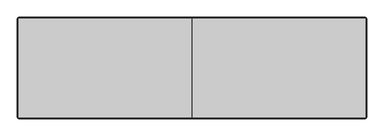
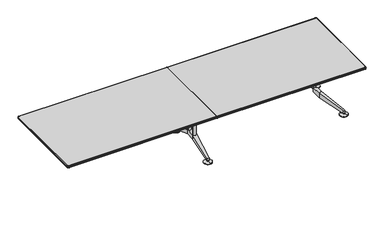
"""IFC4 building model written with IfcOpenShell, lengths in millimetres: furniture geometry, Furniture_Wilkhahn_620-23_Logon Table-Rectangle : Logon 620/23_3800L x 1100W x 730H."""

from ifc_helpers import new_model, si_unit, point, frame, frame_2d, origin, place, context, project, spatial, polyline, circle_curve, ellipse_curve, trimmed, segment, composite_curve, outline, extrude, source, transform, mapped, element, save
from ifc_brep_helpers import plane_surface, cylinder_surface, revolved_surface, advanced_brep


def furniture_2a9930ef(model_context):
    return source(origin(), model_context, "Body", "SolidModel", [
        advanced_brep(
        [(0.0, 226.4755164, 0.0), (0.0, 176.4755164, 0.0), (0.0, 276.4755164, 0.0), (0.0, 176.4755164, 6.0), (0.0, 276.4755164, 6.0), (0.0, 213.9998784, 17.0), (0.0, 238.9511544, 17.0), (0.0, 213.9998784, 27.0), (0.0, 238.9511544, 27.0), (0.0, 226.4755164, 27.0)],
        [
            (0, 1),
            (1, 2, circle_curve(frame((0.0, 226.4755164, 0.0), z_axis=(0.0, 0.0, -1.0), x_axis=(0.0, 1.0000000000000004, 0.0)), 50.0)),
            (2, 0),
            (2, 1, circle_curve(frame((0.0, 226.4755164, 0.0), z_axis=(0.0, 0.0, -1.0), x_axis=(0.0, 1.0000000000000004, 0.0)), 50.0)),
            (1, 3),
            (3, 4, circle_curve(frame((0.0, 226.4755164, 6.0), z_axis=(0.0, 0.0, -1.0), x_axis=(0.0, 1.0000000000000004, 0.0)), 50.0)),
            (4, 2),
            (4, 3, circle_curve(frame((0.0, 226.4755164, 6.0), z_axis=(0.0, 0.0, -1.0), x_axis=(0.0, 1.0000000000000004, 0.0)), 50.0)),
            (3, 5),
            (5, 6, circle_curve(frame((0.0, 226.4755164, 17.0), z_axis=(0.0, 0.0, -1.0), x_axis=(0.0, 1.0000000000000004, 0.0)), 12.475638)),
            (6, 4),
            (6, 5, circle_curve(frame((0.0, 226.4755164, 17.0), z_axis=(0.0, 0.0, -1.0), x_axis=(0.0, 1.0000000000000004, 0.0)), 12.475638)),
            (5, 7),
            (7, 8, circle_curve(frame((0.0, 226.4755164, 27.0), z_axis=(0.0, 0.0, -1.0), x_axis=(0.0, 1.0000000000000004, 0.0)), 12.475638)),
            (8, 6),
            (8, 7, circle_curve(frame((0.0, 226.4755164, 27.0), z_axis=(0.0, 0.0, -1.0), x_axis=(0.0, 1.0000000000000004, 0.0)), 12.475638)),
            (7, 9),
            (9, 8),
        ],
        [
            plane_surface(frame((0.0, 226.4755164, 0.0), z_axis=(0.0, 0.0, -1.0), x_axis=(0.0, 1.0, 0.0))),
            cylinder_surface(frame((0.0, 226.4755164, 27.0), z_axis=(0.0, 0.0, -1.0), x_axis=(0.0, 1.0000000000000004, 0.0)), 50.0),
            revolved_surface(polyline([(0.0, 238.9511544, 17.0), (0.0, 276.4755164, 6.0)]), (0.0, 226.4755164, 27.0), (0.0, 0.0, -1.0)),
            cylinder_surface(frame((0.0, 226.4755164, 27.0), z_axis=(0.0, 0.0, -1.0), x_axis=(0.0, 1.0000000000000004, 0.0)), 12.475638),
            plane_surface(frame((0.0, 226.4755164, 27.0), z_axis=(0.0, 0.0, 1.0), x_axis=(0.0, 1.0, 0.0))),
        ],
        [
            (0, [[1, 2, 3]]),
            (0, [[-3, 4, -1]]),
            (1, [[5, 6, 7, -2]]),
            (1, [[-7, 8, -5, -4]]),
            (2, [[9, 10, 11, -6]]),
            (2, [[-11, 12, -9, -8]]),
            (3, [[13, 14, 15, -10]]),
            (3, [[-15, 16, -13, -12]]),
            (4, [[17, 18, -14]]),
            (4, [[-18, -17, -16]]),
        ],
    ),
        advanced_brep(
        [(0.0, -424.5732076, 0.0), (0.0, -474.5732076, 0.0), (0.0, -524.5732076, 0.0), (0.0, -424.5732076, 6.0), (0.0, -524.5732076, 6.0), (0.0, -462.0975696, 17.0), (0.0, -487.0488456, 17.0), (0.0, -462.0975696, 27.0), (0.0, -487.0488456, 27.0), (0.0, -474.5732076, 27.0)],
        [
            (0, 1),
            (1, 2),
            (2, 0, circle_curve(frame((0.0, -474.5732076, 0.0), z_axis=(0.0, 0.0, -1.0), x_axis=(0.0, -1.0000000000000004, 0.0)), 50.0)),
            (0, 2, circle_curve(frame((0.0, -474.5732076, 0.0), z_axis=(0.0, 0.0, -1.0), x_axis=(0.0, -1.0000000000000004, 0.0)), 50.0)),
            (3, 0),
            (2, 4),
            (4, 3, circle_curve(frame((0.0, -474.5732076, 6.0), z_axis=(0.0, 0.0, -1.0), x_axis=(0.0, -1.0000000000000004, 0.0)), 50.0)),
            (3, 4, circle_curve(frame((0.0, -474.5732076, 6.0), z_axis=(0.0, 0.0, -1.0), x_axis=(0.0, -1.0000000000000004, 0.0)), 50.0)),
            (5, 3),
            (4, 6),
            (6, 5, circle_curve(frame((0.0, -474.5732076, 17.0), z_axis=(0.0, 0.0, -1.0), x_axis=(0.0, -1.0000000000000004, 0.0)), 12.475638)),
            (5, 6, circle_curve(frame((0.0, -474.5732076, 17.0), z_axis=(0.0, 0.0, -1.0), x_axis=(0.0, -1.0000000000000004, 0.0)), 12.475638)),
            (7, 5),
            (6, 8),
            (8, 7, circle_curve(frame((0.0, -474.5732076, 27.0), z_axis=(0.0, 0.0, -1.0), x_axis=(0.0, -1.0000000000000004, 0.0)), 12.475638)),
            (7, 8, circle_curve(frame((0.0, -474.5732076, 27.0), z_axis=(0.0, 0.0, -1.0), x_axis=(0.0, -1.0000000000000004, 0.0)), 12.475638)),
            (9, 7),
            (8, 9),
        ],
        [
            plane_surface(frame((0.0, -474.5732076, 0.0), z_axis=(0.0, 0.0, -1.0), x_axis=(0.0, -1.0, 0.0))),
            cylinder_surface(frame((0.0, -474.5732076, 27.0), z_axis=(0.0, 0.0, 1.0), x_axis=(0.0, -1.0000000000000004, 0.0)), 50.0),
            revolved_surface(polyline([(0.0, -524.5732076, 6.0), (0.0, -487.0488456, 17.0)]), (0.0, -474.5732076, 27.0), (0.0, 0.0, 1.0)),
            cylinder_surface(frame((0.0, -474.5732076, 27.0), z_axis=(0.0, 0.0, 1.0), x_axis=(0.0, -1.0000000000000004, 0.0)), 12.475638),
            plane_surface(frame((0.0, -474.5732076, 27.0), z_axis=(0.0, 0.0, 1.0), x_axis=(0.0, -1.0, 0.0))),
        ],
        [
            (0, [[1, 2, 3]]),
            (0, [[-2, -1, 4]]),
            (1, [[5, -3, 6, 7]]),
            (1, [[-6, -4, -5, 8]]),
            (2, [[9, -7, 10, 11]]),
            (2, [[-10, -8, -9, 12]]),
            (3, [[13, -11, 14, 15]]),
            (3, [[-14, -12, -13, 16]]),
            (4, [[17, -15, 18]]),
            (4, [[-18, -16, -17]]),
        ],
    ),
        extrude(outline(composite_curve([segment(polyline([(25.0, -71.0488456), (25.0, -177.0488456), (51.7160071, -340.1086133)]), True, "CONTINUOUS"), segment(trimmed(circle_curve(frame_2d((39.8739001, -342.0488456)), 12.0), [point((51.7160071, -340.1086133))], [point((39.8739001, -354.0488456))], False, "CARTESIAN"), True, "CONTINUOUS"), segment(polyline([(39.8739001, -354.0488456), (-39.8739001, -354.0488456)]), True, "CONTINUOUS"), segment(trimmed(circle_curve(frame_2d((-39.8739001, -342.0488456)), 12.0), [point((-39.8739001, -354.0488456))], [point((-51.7160071, -340.1086133))], False, "CARTESIAN"), True, "CONTINUOUS"), segment(polyline([(-51.7160071, -340.1086133), (-25.0, -177.0488456), (-25.0, -71.0488456), (-51.7160071, 92.0109222)]), True, "CONTINUOUS"), segment(trimmed(circle_curve(frame_2d((-39.8739001, 93.9511544)), 12.0), [point((-51.7160071, 92.0109222))], [point((-39.8739001, 105.9511544))], False, "CARTESIAN"), True, "CONTINUOUS"), segment(polyline([(-39.8739001, 105.9511544), (39.8739001, 105.9511544)]), True, "CONTINUOUS"), segment(trimmed(circle_curve(frame_2d((39.8739001, 93.9511544)), 12.0), [point((39.8739001, 105.9511544))], [point((51.7160071, 92.0109222))], False, "CARTESIAN"), True, "CONTINUOUS"), segment(polyline([(51.7160071, 92.0109222), (25.0, -71.0488456)]), True, "CONTINUOUS")], self_intersect=False)), frame((0.0, 0.0, 675.0), z_axis=(0.0, 0.0, 1.0), x_axis=(1.0, 0.0, 0.0)), (0.0, 0.0, 1.0), 29.0),
        advanced_brep(
        [(-25.0, -177.0488456, 140.0), (-25.0, -177.0488456, 195.0), (-25.0, -71.0488456, 195.0), (-25.0, -71.0488456, 140.0), (25.0, -177.0488456, 195.0), (25.0, -177.0488456, 140.0), (25.0, -71.0488456, 140.0), (25.0, -71.0488456, 195.0), (13.4930419, -462.0975696, 27.0), (12.9894205, -474.5732076, 27.0), (0.0, -487.0488456, 27.0), (-12.9894205, -474.5732076, 27.0), (-13.4930419, -462.0975696, 27.0), (-12.9894205, -474.5732076, 56.4159205), (0.0, -487.0488456, 50.6048844), (12.9894205, -474.5732076, 56.4159205), (12.9894205, 226.4755164, 56.4159205), (13.4930419, 213.9998784, 27.0), (12.9894205, 226.4755164, 27.0), (-12.9894205, 226.4755164, 27.0), (-13.4930419, 213.9998784, 27.0), (-12.9894205, 226.4755164, 56.4159205), (0.0, 238.9511544, 50.6048844), (0.0, 238.9511544, 27.0)],
        [
            (0, 1),
            (1, 2),
            (2, 3),
            (3, 0),
            (4, 5),
            (5, 6),
            (6, 7),
            (7, 4),
            (8, 9),
            (9, 10, circle_curve(frame((0.0, -474.0488456, 27.0), z_axis=(0.0, 0.0, -1.0), x_axis=(1.0000000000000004, 0.0, 0.0)), 13.0)),
            (10, 11, circle_curve(frame((0.0, -474.0488456, 27.0), z_axis=(0.0, 0.0, -1.0), x_axis=(1.0000000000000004, 0.0, 0.0)), 13.0)),
            (11, 12),
            (12, 8),
            (1, 13),
            (13, 14, ellipse_curve(frame((0.0, -474.0488456, 56.6601634), z_axis=(0.0, -0.42223330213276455, 0.9064871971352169), x_axis=(0.0, -0.9064871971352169, -0.42223330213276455)), 14.341074, 13.0)),
            (14, 15, ellipse_curve(frame((0.0, -474.0488456, 56.6601634), z_axis=(0.0, -0.42223330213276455, 0.9064871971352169), x_axis=(0.0, -0.9064871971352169, -0.42223330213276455)), 14.341074, 13.0)),
            (15, 4),
            (4, 1),
            (5, 8),
            (12, 0),
            (0, 5),
            (16, 7),
            (6, 17),
            (17, 18),
            (18, 16),
            (19, 20),
            (20, 3),
            (2, 21),
            (21, 19),
            (7, 2),
            (3, 6),
            (21, 22, ellipse_curve(frame((0.0, 225.9511544, 56.6601634), z_axis=(0.0, -0.42223330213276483, -0.906487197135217), x_axis=(0.0, 0.906487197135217, -0.42223330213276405)), 14.341074, 13.0)),
            (22, 16, ellipse_curve(frame((0.0, 225.9511544, 56.6601634), z_axis=(0.0, -0.42223330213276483, -0.906487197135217), x_axis=(0.0, 0.906487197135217, -0.42223330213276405)), 14.341074, 13.0)),
            (18, 23, circle_curve(frame((0.0, 225.9511544, 27.0), z_axis=(0.0, 0.0, 1.0), x_axis=(1.0000000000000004, 0.0, 0.0)), 13.0)),
            (23, 19, circle_curve(frame((0.0, 225.9511544, 27.0), z_axis=(0.0, 0.0, 1.0), x_axis=(1.0000000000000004, 0.0, 0.0)), 13.0)),
            (11, 13),
            (9, 15),
            (17, 20),
        ],
        [
            plane_surface(frame((-25.0, -470.3023057, 27.0), z_axis=(-1.0, 0.0, 0.0), x_axis=(0.0, 1.0, 0.0))),
            plane_surface(frame((25.0, -470.3023057, 27.0), z_axis=(1.0, 0.0, 0.0), x_axis=(0.0, -1.0, 0.0))),
            plane_surface(frame((25.0, -462.0975696, 27.0), z_axis=(0.0, 0.0, -1.0), x_axis=(-1.0, 0.0, 0.0))),
            plane_surface(frame((25.0, -487.0488456, 50.6048844), z_axis=(0.0, -0.42223330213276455, 0.9064871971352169), x_axis=(-1.0, 0.0, 0.0))),
            plane_surface(frame((25.0, -177.0488456, 140.0), z_axis=(0.0, 0.36852267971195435, -0.9296187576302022), x_axis=(-1.0, 0.0, 0.0))),
            plane_surface(frame((25.0, -71.0488456, 195.0), z_axis=(0.9991861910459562, 0.04033553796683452, 0.0), x_axis=(0.0, 0.0, -1.0))),
            plane_surface(frame((-12.9894205, 226.4755164, 195.0), z_axis=(-0.9991861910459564, 0.0403355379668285, 0.0), x_axis=(0.0, 0.0, -1.0))),
            plane_surface(frame((25.0, -177.0488456, 195.0), z_axis=(0.0, 0.0, 1.0), x_axis=(-1.0, 0.0, 0.0))),
            plane_surface(frame((25.0, -71.0488456, 140.0), z_axis=(0.0, 0.0, -1.0), x_axis=(-1.0, 0.0, 0.0))),
            cylinder_surface(frame((0.0, 225.9511544, 0.0), z_axis=(0.0, 0.0, -1.0), x_axis=(1.0000000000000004, 0.0, 0.0)), 13.0),
            plane_surface(frame((-25.0, -177.0488456, 195.0), z_axis=(-0.9991861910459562, -0.040335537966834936, 0.0), x_axis=(0.0, 0.0, -1.0))),
            cylinder_surface(frame((0.0, -474.0488456, -14.190167), z_axis=(0.0, 0.0, -1.0), x_axis=(1.0000000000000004, 0.0, 0.0)), 13.0),
            plane_surface(frame((12.9894205, -474.5732076, 195.0), z_axis=(0.9991861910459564, -0.04033553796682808, 0.0), x_axis=(0.0, 0.0, -1.0))),
            plane_surface(frame((25.0, -71.0488456, 195.0), z_axis=(0.0, 0.4222333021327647, 0.9064871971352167), x_axis=(-1.0, 0.0, 0.0))),
            plane_surface(frame((25.0, 238.9511544, 27.0), z_axis=(0.0, 0.0, -1.0), x_axis=(-1.0, 0.0, 0.0))),
            plane_surface(frame((25.0, 213.9998784, 27.0), z_axis=(0.0, -0.36852267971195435, -0.929618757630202), x_axis=(-1.0, 0.0, 0.0))),
        ],
        [
            (0, [[1, 2, 3, 4]]),
            (1, [[5, 6, 7, 8]]),
            (2, [[9, 10, 11, 12, 13]]),
            (3, [[14, 15, 16, 17, 18]]),
            (4, [[19, -13, 20, 21]]),
            (5, [[22, -7, 23, 24, 25]]),
            (6, [[26, 27, -3, 28, 29]]),
            (7, [[-18, -8, 30, -2]]),
            (8, [[31, -6, -21, -4]]),
            (9, [[32, 33, -25, 34, 35, -29]]),
            (10, [[-14, -1, -20, -12, 36]]),
            (11, [[-11, -10, 37, -16, -15, -36]]),
            (12, [[-9, -19, -5, -17, -37]]),
            (13, [[-22, -33, -32, -28, -30]]),
            (14, [[-26, -35, -34, -24, 38]]),
            (15, [[-27, -38, -23, -31]]),
        ],
    ),
        extrude(outline(composite_curve([segment(trimmed(circle_curve(frame_2d((0.0, -71.0488456)), 20.0), [point((-20.0, -71.0488456))], [point((20.0, -71.0488456))], False, "CARTESIAN"), True, "CONTINUOUS"), segment(trimmed(circle_curve(frame_2d((0.0, -71.0488456)), 20.0), [point((20.0, -71.0488456))], [point((-20.0, -71.0488456))], False, "CARTESIAN"), True, "CONTINUOUS")], self_intersect=False)), frame((0.0, 0.0, 140.0), z_axis=(0.0, 0.0, 1.0), x_axis=(1.0, 0.0, 0.0)), (0.0, 0.0, 1.0), 535.0),
        extrude(outline(composite_curve([segment(trimmed(circle_curve(frame_2d((0.0, -177.0488456)), 20.0), [point((-20.0, -177.0488456))], [point((20.0, -177.0488456))], False, "CARTESIAN"), True, "CONTINUOUS"), segment(trimmed(circle_curve(frame_2d((0.0, -177.0488456)), 20.0), [point((20.0, -177.0488456))], [point((-20.0, -177.0488456))], False, "CARTESIAN"), True, "CONTINUOUS")], self_intersect=False)), frame((0.0, 0.0, 140.0), z_axis=(0.0, 0.0, 1.0), x_axis=(1.0, 0.0, 0.0)), (0.0, 0.0, 1.0), 535.0),
        advanced_brep(
        [(0.0, -670.2688717, 730.0), (1885.0, -670.2688717, 730.0), (1896.2200262, -659.0488456, 730.0), (1896.2200262, 410.9511544, 730.0), (1885.0, 422.1711806, 730.0), (0.0, 422.1711806, 730.0), (0.0, 422.1711806, 703.9999792), (1885.0, 422.1711806, 703.9999792), (1896.2200262, 410.9511544, 703.9999792), (1896.2200262, -659.0488456, 703.9999792), (1885.0, -670.2688717, 703.9999792), (0.0, -670.2688717, 703.9999792), (0.0, 423.6544035, 728.7237185), (0.0, 424.4525095, 720.5693751), (0.0, 424.4525095, 713.4306041), (0.0, 423.6544035, 705.2762608), (0.0, -671.7520946, 705.2762608), (0.0, -672.5502006, 713.4306041), (0.0, -672.5502006, 720.5693751), (0.0, -671.7520946, 728.7237185), (1885.0, -672.5502006, 713.4306041), (1898.5013551, -659.0488456, 713.4306041), (1898.5013551, -659.0488456, 720.5693751), (1885.0, -672.5502006, 720.5693751), (1885.0, 424.4525095, 720.5693751), (1885.0, 424.4525095, 713.4306041), (1898.5013551, 410.9511544, 720.5693751), (1898.5013551, 410.9511544, 713.4306041), (1897.703249, -659.0488456, 705.2762608), (1885.0, -671.7520946, 705.2762608), (1897.703249, -659.0488456, 728.7237185), (1885.0, -671.7520946, 728.7237185), (1885.0, 423.6544035, 705.2762608), (1885.0, 423.6544035, 728.7237185), (1897.703249, 410.9511544, 705.2762608), (1897.703249, 410.9511544, 728.7237185)],
        [
            (0, 1),
            (1, 2, circle_curve(frame((1885.0, -659.0488456, 730.0), z_axis=(0.0, 0.0, 1.0), x_axis=(1.0, 0.0, 0.0)), 11.2200262)),
            (2, 3),
            (3, 4, circle_curve(frame((1885.0, 410.9511544, 730.0), z_axis=(0.0, 0.0, 1.0), x_axis=(0.0, 1.0, 0.0)), 11.2200262)),
            (4, 5),
            (5, 0),
            (6, 7),
            (7, 8, circle_curve(frame((1885.0, 410.9511544, 703.9999792), z_axis=(0.0, 0.0, -1.0), x_axis=(0.0, 1.0, 0.0)), 11.2200262)),
            (8, 9),
            (9, 10, circle_curve(frame((1885.0, -659.0488456, 703.9999792), z_axis=(0.0, 0.0, -1.0), x_axis=(1.0, 0.0, 0.0)), 11.2200262)),
            (10, 11),
            (11, 6),
            (5, 12, circle_curve(frame((0.0, 422.1711806, 728.5), z_axis=(-1.0, 0.0, 0.0), x_axis=(0.0, 1.0, 0.0)), 1.5)),
            (12, 13, circle_curve(frame((0.0, 345.9276799, 716.9999896), z_axis=(-1.0, 0.0, 0.0), x_axis=(0.0, 1.0, 0.0)), 78.6059119)),
            (13, 14, circle_curve(frame((0.0, 420.9511544, 716.9999896), z_axis=(-1.0, 0.0, 0.0), x_axis=(0.0, 1.0, 0.0)), 5.0)),
            (14, 15, circle_curve(frame((0.0, 345.9276799, 716.9999896), z_axis=(-1.0, 0.0, 0.0), x_axis=(0.0, 1.0, 0.0)), 78.6059119)),
            (15, 6, circle_curve(frame((0.0, 422.1711806, 705.4999792), z_axis=(-1.0, 0.0, 0.0), x_axis=(0.0, 1.0, 0.0)), 1.5)),
            (11, 16, circle_curve(frame((0.0, -670.2688717, 705.4999792), z_axis=(-1.0, 0.0, 0.0), x_axis=(0.0, -1.0, 0.0)), 1.5)),
            (16, 17, circle_curve(frame((0.0, -594.025371, 716.9999896), z_axis=(-1.0, 0.0, 0.0), x_axis=(0.0, -1.0, 0.0)), 78.6059119)),
            (17, 18, circle_curve(frame((0.0, -669.0488456, 716.9999896), z_axis=(-1.0, 0.0, 0.0), x_axis=(0.0, -1.0, 0.0)), 5.0)),
            (18, 19, circle_curve(frame((0.0, -594.025371, 716.9999896), z_axis=(-1.0, 0.0, 0.0), x_axis=(0.0, -1.0, 0.0)), 78.6059119)),
            (19, 0, circle_curve(frame((0.0, -670.2688717, 728.5), z_axis=(-1.0, 0.0, 0.0), x_axis=(0.0, -1.0, 0.0)), 1.5)),
            (20, 21, circle_curve(frame((1885.0, -659.0488456, 713.4306041), z_axis=(0.0, 0.0, 1.0), x_axis=(1.0, 0.0, 0.0)), 13.5013551)),
            (21, 22, circle_curve(frame((1895.0, -659.0488456, 716.9999896), z_axis=(0.0, -1.0, 0.0), x_axis=(1.0, 0.0, 0.0)), 5.0)),
            (22, 23, circle_curve(frame((1885.0, -659.0488456, 720.5693751), z_axis=(0.0, 0.0, -1.0), x_axis=(1.0, 0.0, 0.0)), 13.5013551)),
            (23, 20, circle_curve(frame((1885.0, -669.0488456, 716.9999896), z_axis=(1.0, 0.0, 0.0), x_axis=(0.0, -1.0, 0.0)), 5.0)),
            (17, 20),
            (23, 18),
            (13, 24),
            (24, 25, circle_curve(frame((1885.0, 420.9511544, 716.9999896), z_axis=(-1.0, 0.0, 0.0), x_axis=(0.0, 1.0, 0.0)), 5.0)),
            (25, 14),
            (24, 26, circle_curve(frame((1885.0, 410.9511544, 720.5693751), z_axis=(0.0, 0.0, -1.0), x_axis=(0.0, 1.0, 0.0)), 13.5013551)),
            (26, 27, circle_curve(frame((1895.0, 410.9511544, 716.9999896), z_axis=(0.0, 1.0, 0.0), x_axis=(1.0, 0.0, 0.0)), 5.0)),
            (27, 25, circle_curve(frame((1885.0, 410.9511544, 713.4306041), z_axis=(0.0, 0.0, 1.0), x_axis=(0.0, 1.0, 0.0)), 13.5013551)),
            (21, 27),
            (26, 22),
            (9, 28, circle_curve(frame((1896.2200262, -659.0488456, 705.4999792), z_axis=(0.0, -1.0, 0.0), x_axis=(1.0, 0.0, 0.0)), 1.5)),
            (28, 29, circle_curve(frame((1885.0, -659.0488456, 705.2762608), z_axis=(0.0, 0.0, -1.0), x_axis=(1.0, 0.0, 0.0)), 12.703249)),
            (29, 10, circle_curve(frame((1885.0, -670.2688717, 705.4999792), z_axis=(1.0, 0.0, 0.0), x_axis=(0.0, -1.0, 0.0)), 1.5)),
            (20, 29, circle_curve(frame((1885.0, -594.025371, 716.9999896), z_axis=(1.0, 0.0, 0.0), x_axis=(0.0, -1.0, 0.0)), 78.6059119)),
            (28, 21, circle_curve(frame((1819.9765254, -659.0488456, 716.9999896), z_axis=(0.0, -1.0, 0.0), x_axis=(1.0, 0.0, 0.0)), 78.6059119)),
            (22, 30, circle_curve(frame((1819.9765254, -659.0488456, 716.9999896), z_axis=(0.0, -1.0, 0.0), x_axis=(1.0, 0.0, 0.0)), 78.6059119)),
            (30, 31, circle_curve(frame((1885.0, -659.0488456, 728.7237185), z_axis=(0.0, 0.0, -1.0), x_axis=(1.0, 0.0, 0.0)), 12.703249)),
            (31, 23, circle_curve(frame((1885.0, -594.025371, 716.9999896), z_axis=(1.0, 0.0, 0.0), x_axis=(0.0, -1.0, 0.0)), 78.6059119)),
            (1, 31, circle_curve(frame((1885.0, -670.2688717, 728.5), z_axis=(1.0, 0.0, 0.0), x_axis=(0.0, -1.0, 0.0)), 1.5)),
            (30, 2, circle_curve(frame((1896.2200262, -659.0488456, 728.5), z_axis=(0.0, -1.0, 0.0), x_axis=(1.0, 0.0, 0.0)), 1.5)),
            (29, 16),
            (31, 19),
            (15, 32),
            (32, 7, circle_curve(frame((1885.0, 422.1711806, 705.4999792), z_axis=(-1.0, 0.0, 0.0), x_axis=(0.0, 1.0, 0.0)), 1.5)),
            (25, 32, circle_curve(frame((1885.0, 345.9276799, 716.9999896), z_axis=(-1.0, 0.0, 0.0), x_axis=(0.0, 1.0, 0.0)), 78.6059119)),
            (12, 33),
            (33, 24, circle_curve(frame((1885.0, 345.9276799, 716.9999896), z_axis=(-1.0, 0.0, 0.0), x_axis=(0.0, 1.0, 0.0)), 78.6059119)),
            (4, 33, circle_curve(frame((1885.0, 422.1711806, 728.5), z_axis=(-1.0, 0.0, 0.0), x_axis=(0.0, 1.0, 0.0)), 1.5)),
            (32, 34, circle_curve(frame((1885.0, 410.9511544, 705.2762608), z_axis=(0.0, 0.0, -1.0), x_axis=(0.0, 1.0, 0.0)), 12.703249)),
            (34, 8, circle_curve(frame((1896.2200262, 410.9511544, 705.4999792), z_axis=(0.0, 1.0, 0.0), x_axis=(1.0, 0.0, 0.0)), 1.5)),
            (27, 34, circle_curve(frame((1819.9765254, 410.9511544, 716.9999896), z_axis=(0.0, 1.0, 0.0), x_axis=(1.0, 0.0, 0.0)), 78.6059119)),
            (33, 35, circle_curve(frame((1885.0, 410.9511544, 728.7237185), z_axis=(0.0, 0.0, -1.0), x_axis=(0.0, 1.0, 0.0)), 12.703249)),
            (35, 26, circle_curve(frame((1819.9765254, 410.9511544, 716.9999896), z_axis=(0.0, 1.0, 0.0), x_axis=(1.0, 0.0, 0.0)), 78.6059119)),
            (3, 35, circle_curve(frame((1896.2200262, 410.9511544, 728.5), z_axis=(0.0, 1.0, 0.0), x_axis=(1.0, 0.0, 0.0)), 1.5)),
            (34, 28),
            (35, 30),
        ],
        [
            plane_surface(frame((1875.0, 410.9511544, 730.0), z_axis=(0.0, 0.0, 1.0), x_axis=(0.0, -1.0, 0.0))),
            plane_surface(frame((1875.0, 410.9511544, 703.9999792), z_axis=(0.0, 0.0, -1.0), x_axis=(0.0, 1.0, 0.0))),
            plane_surface(frame((0.0, 420.9511544, 730.0), z_axis=(-1.0, 0.0, 0.0), x_axis=(0.0, 0.0, -1.0))),
            revolved_surface(trimmed(ellipse_curve(frame((1895.0, -659.0488456, 716.9999896), z_axis=(0.0, 1.0, 0.0), x_axis=(1.0, 0.0, 0.0)), 5.0, 5.0), [point((1898.5013551, -659.0488456, 720.5693751))], [point((1898.5013551, -659.0488456, 713.4306041))], True, "CARTESIAN"), (1885.0, -659.0488456, 730.0), (0.0, 0.0, -1.0)),
            cylinder_surface(frame((1885.0, -669.0488456, 716.9999896), z_axis=(1.0, 0.0, 0.0), x_axis=(0.0, -1.0, 0.0)), 5.0),
            cylinder_surface(frame((0.0, 420.9511544, 716.9999896), z_axis=(-1.0, 0.0, 0.0), x_axis=(0.0, 1.0, 0.0)), 5.0),
            revolved_surface(trimmed(ellipse_curve(frame((1885.0, 420.9511544, 716.9999896), z_axis=(-1.0, 0.0, 0.0), x_axis=(0.0, 1.0, 0.0)), 5.0, 5.0), [point((1885.0, 424.4525095, 720.5693751))], [point((1885.0, 424.4525095, 713.4306041))], True, "CARTESIAN"), (1885.0, 410.9511544, 730.0), (0.0, 0.0, -1.0)),
            cylinder_surface(frame((1895.0, 410.9511544, 716.9999896), z_axis=(0.0, 1.0, 0.0), x_axis=(1.0, 0.0, 0.0)), 5.0),
            revolved_surface(trimmed(ellipse_curve(frame((1896.2200262, -659.0488456, 705.4999792), z_axis=(0.0, 1.0, 0.0), x_axis=(1.0, 0.0, 0.0)), 1.5, 1.5), [point((1897.703249, -659.0488456, 705.2762608))], [point((1896.2200262, -659.0488456, 703.9999792))], True, "CARTESIAN"), (1885.0, -659.0488456, 730.0), (0.0, 0.0, -1.0)),
            revolved_surface(trimmed(ellipse_curve(frame((1819.9765254, -659.0488456, 716.9999896), z_axis=(0.0, 1.0, 0.0), x_axis=(1.0, 0.0, 0.0)), 78.6059119, 78.6059119), [point((1898.5013551, -659.0488456, 713.4306041))], [point((1897.703249, -659.0488456, 705.2762608))], True, "CARTESIAN"), (1885.0, -659.0488456, 730.0), (0.0, 0.0, -1.0)),
            revolved_surface(trimmed(ellipse_curve(frame((1819.9765254, -659.0488456, 716.9999896), z_axis=(0.0, 1.0, 0.0), x_axis=(1.0, 0.0, 0.0)), 78.6059119, 78.6059119), [point((1897.703249, -659.0488456, 728.7237185))], [point((1898.5013551, -659.0488456, 720.5693751))], True, "CARTESIAN"), (1885.0, -659.0488456, 730.0), (0.0, 0.0, -1.0)),
            revolved_surface(trimmed(ellipse_curve(frame((1896.2200262, -659.0488456, 728.5), z_axis=(0.0, 1.0, 0.0), x_axis=(1.0, 0.0, 0.0)), 1.5, 1.5), [point((1896.2200262, -659.0488456, 730.0))], [point((1897.703249, -659.0488456, 728.7237185))], True, "CARTESIAN"), (1885.0, -659.0488456, 730.0), (0.0, 0.0, -1.0)),
            cylinder_surface(frame((1885.0, -670.2688717, 705.4999792), z_axis=(1.0, 0.0, 0.0), x_axis=(0.0, -1.0, 0.0)), 1.5),
            cylinder_surface(frame((1885.0, -594.025371, 716.9999896), z_axis=(1.0, 0.0, 0.0), x_axis=(0.0, -1.0, 0.0)), 78.6059119),
            cylinder_surface(frame((1885.0, -670.2688717, 728.5), z_axis=(1.0, 0.0, 0.0), x_axis=(0.0, -1.0, 0.0)), 1.5),
            cylinder_surface(frame((0.0, 422.1711806, 705.4999792), z_axis=(-1.0, 0.0, 0.0), x_axis=(0.0, 1.0, 0.0)), 1.5),
            cylinder_surface(frame((0.0, 345.9276799, 716.9999896), z_axis=(-1.0, 0.0, 0.0), x_axis=(0.0, 1.0, 0.0)), 78.6059119),
            cylinder_surface(frame((0.0, 422.1711806, 728.5), z_axis=(-1.0, 0.0, 0.0), x_axis=(0.0, 1.0, 0.0)), 1.5),
            revolved_surface(trimmed(ellipse_curve(frame((1885.0, 422.1711806, 705.4999792), z_axis=(-1.0, 0.0, 0.0), x_axis=(0.0, 1.0, 0.0)), 1.5, 1.5), [point((1885.0, 423.6544035, 705.2762608))], [point((1885.0, 422.1711806, 703.9999792))], True, "CARTESIAN"), (1885.0, 410.9511544, 730.0), (0.0, 0.0, -1.0)),
            revolved_surface(trimmed(ellipse_curve(frame((1885.0, 345.9276799, 716.9999896), z_axis=(-1.0, 0.0, 0.0), x_axis=(0.0, 1.0, 0.0)), 78.6059119, 78.6059119), [point((1885.0, 424.4525095, 713.4306041))], [point((1885.0, 423.6544035, 705.2762608))], True, "CARTESIAN"), (1885.0, 410.9511544, 730.0), (0.0, 0.0, -1.0)),
            revolved_surface(trimmed(ellipse_curve(frame((1885.0, 345.9276799, 716.9999896), z_axis=(-1.0, 0.0, 0.0), x_axis=(0.0, 1.0, 0.0)), 78.6059119, 78.6059119), [point((1885.0, 423.6544035, 728.7237185))], [point((1885.0, 424.4525095, 720.5693751))], True, "CARTESIAN"), (1885.0, 410.9511544, 730.0), (0.0, 0.0, -1.0)),
            revolved_surface(trimmed(ellipse_curve(frame((1885.0, 422.1711806, 728.5), z_axis=(-1.0, 0.0, 0.0), x_axis=(0.0, 1.0, 0.0)), 1.5, 1.5), [point((1885.0, 422.1711806, 730.0))], [point((1885.0, 423.6544035, 728.7237185))], True, "CARTESIAN"), (1885.0, 410.9511544, 730.0), (0.0, 0.0, -1.0)),
            cylinder_surface(frame((1896.2200262, 410.9511544, 705.4999792), z_axis=(0.0, 1.0, 0.0), x_axis=(1.0, 0.0, 0.0)), 1.5),
            cylinder_surface(frame((1819.9765254, 410.9511544, 716.9999896), z_axis=(0.0, 1.0, 0.0), x_axis=(1.0, 0.0, 0.0)), 78.6059119),
            cylinder_surface(frame((1896.2200262, 410.9511544, 728.5), z_axis=(0.0, 1.0, 0.0), x_axis=(1.0, 0.0, 0.0)), 1.5),
        ],
        [
            (0, [[1, 2, 3, 4, 5, 6]]),
            (1, [[7, 8, 9, 10, 11, 12]]),
            (2, [[-6, 13, 14, 15, 16, 17, -12, 18, 19, 20, 21, 22]]),
            (3, [[23, 24, 25, 26]]),
            (4, [[-20, 27, -26, 28]]),
            (5, [[-15, 29, 30, 31]]),
            (6, [[-30, 32, 33, 34]]),
            (7, [[-24, 35, -33, 36]]),
            (8, [[-10, 37, 38, 39]]),
            (9, [[-23, 40, -38, 41]]),
            (10, [[-25, 42, 43, 44]]),
            (11, [[-2, 45, -43, 46]]),
            (12, [[-18, -11, -39, 47]]),
            (13, [[-19, -47, -40, -27]]),
            (13, [[-21, -28, -44, 48]]),
            (14, [[-22, -48, -45, -1]]),
            (15, [[-17, 49, 50, -7]]),
            (16, [[-16, -31, 51, -49]]),
            (16, [[-14, 52, 53, -29]]),
            (17, [[-13, -5, 54, -52]]),
            (18, [[-8, -50, 55, 56]]),
            (19, [[-34, 57, -55, -51]]),
            (20, [[-32, -53, 58, 59]]),
            (21, [[-4, 60, -58, -54]]),
            (22, [[-9, -56, 61, -37]]),
            (23, [[-35, -41, -61, -57]]),
            (23, [[-36, -59, 62, -42]]),
            (24, [[-3, -46, -62, -60]]),
        ],
    ),
        advanced_brep(
        [(-1885.0, -672.5502006, 720.5693751), (-1898.5013551, -659.0488456, 720.5693751), (-1898.5013551, -659.0488456, 713.4306041), (-1885.0, -672.5502006, 713.4306041), (0.0, -672.5502006, 713.4306041), (0.0, -672.5502006, 720.5693751), (0.0, 424.4525095, 720.5693751), (0.0, 424.4525095, 713.4306041), (-1885.0, 424.4525095, 713.4306041), (-1885.0, 424.4525095, 720.5693751), (-1898.5013551, 410.9511544, 713.4306041), (-1898.5013551, 410.9511544, 720.5693751), (-1896.2200262, -659.0488456, 703.9999792), (-1885.0, -670.2688717, 703.9999792), (-1885.0, -671.7520946, 705.2762608), (-1897.703249, -659.0488456, 705.2762608), (-1885.0, -671.7520946, 728.7237185), (-1897.703249, -659.0488456, 728.7237185), (-1885.0, -670.2688717, 730.0), (-1896.2200262, -659.0488456, 730.0), (0.0, -670.2688717, 703.9999792), (0.0, -671.7520946, 705.2762608), (0.0, -671.7520946, 728.7237185), (0.0, -670.2688717, 730.0), (0.0, 423.6544035, 705.2762608), (0.0, 422.1711806, 703.9999792), (-1885.0, 422.1711806, 703.9999792), (-1885.0, 423.6544035, 705.2762608), (0.0, 423.6544035, 728.7237185), (-1885.0, 423.6544035, 728.7237185), (0.0, 422.1711806, 730.0), (-1885.0, 422.1711806, 730.0), (-1896.2200262, 410.9511544, 703.9999792), (-1897.703249, 410.9511544, 705.2762608), (-1897.703249, 410.9511544, 728.7237185), (-1896.2200262, 410.9511544, 730.0)],
        [
            (0, 1, circle_curve(frame((-1885.0, -659.0488456, 720.5693751), z_axis=(0.0, 0.0, -1.0), x_axis=(-1.0, 0.0, 0.0)), 13.5013551)),
            (1, 2, circle_curve(frame((-1895.0, -659.0488456, 716.9999896), z_axis=(0.0, -1.0, 0.0), x_axis=(1.0, 0.0, 0.0)), 5.0)),
            (2, 3, circle_curve(frame((-1885.0, -659.0488456, 713.4306041), z_axis=(0.0, 0.0, 1.0), x_axis=(-1.0, 0.0, 0.0)), 13.5013551)),
            (3, 0, circle_curve(frame((-1885.0, -669.0488456, 716.9999896), z_axis=(-1.0, 0.0, 0.0), x_axis=(0.0, 1.0, 0.0)), 5.0)),
            (4, 5, circle_curve(frame((0.0, -669.0488456, 716.9999896), z_axis=(-1.0, 0.0, 0.0), x_axis=(0.0, 1.0, 0.0)), 5.0)),
            (5, 0),
            (3, 4),
            (6, 7, circle_curve(frame((0.0, 420.9511544, 716.9999896), z_axis=(-1.0, 0.0, 0.0), x_axis=(0.0, -1.0, 0.0)), 5.0)),
            (7, 8),
            (8, 9, circle_curve(frame((-1885.0, 420.9511544, 716.9999896), z_axis=(1.0, 0.0, 0.0), x_axis=(0.0, -1.0, 0.0)), 5.0)),
            (9, 6),
            (8, 10, circle_curve(frame((-1885.0, 410.9511544, 713.4306041), z_axis=(0.0, 0.0, 1.0), x_axis=(0.0, 1.0, 0.0)), 13.5013551)),
            (10, 11, circle_curve(frame((-1895.0, 410.9511544, 716.9999896), z_axis=(0.0, 1.0, 0.0), x_axis=(1.0, 0.0, 0.0)), 5.0)),
            (11, 9, circle_curve(frame((-1885.0, 410.9511544, 720.5693751), z_axis=(0.0, 0.0, -1.0), x_axis=(0.0, 1.0, 0.0)), 13.5013551)),
            (1, 11),
            (10, 2),
            (12, 13, circle_curve(frame((-1885.0, -659.0488456, 703.9999792), z_axis=(0.0, 0.0, 1.0), x_axis=(-1.0, 0.0, 0.0)), 11.2200262)),
            (13, 14, circle_curve(frame((-1885.0, -670.2688717, 705.4999792), z_axis=(-1.0, 0.0, 0.0), x_axis=(0.0, 1.0, 0.0)), 1.5)),
            (14, 15, circle_curve(frame((-1885.0, -659.0488456, 705.2762608), z_axis=(0.0, 0.0, -1.0), x_axis=(-1.0, 0.0, 0.0)), 12.703249)),
            (15, 12, circle_curve(frame((-1896.2200262, -659.0488456, 705.4999792), z_axis=(0.0, -1.0, 0.0), x_axis=(1.0, 0.0, 0.0)), 1.5)),
            (2, 15, circle_curve(frame((-1819.9765254, -659.0488456, 716.9999896), z_axis=(0.0, -1.0, 0.0), x_axis=(1.0, 0.0, 0.0)), 78.6059119)),
            (14, 3, circle_curve(frame((-1885.0, -594.025371, 716.9999896), z_axis=(-1.0, 0.0, 0.0), x_axis=(0.0, 1.0, 0.0)), 78.6059119)),
            (0, 16, circle_curve(frame((-1885.0, -594.025371, 716.9999896), z_axis=(-1.0, 0.0, 0.0), x_axis=(0.0, 1.0, 0.0)), 78.6059119)),
            (16, 17, circle_curve(frame((-1885.0, -659.0488456, 728.7237185), z_axis=(0.0, 0.0, -1.0), x_axis=(-1.0, 0.0, 0.0)), 12.703249)),
            (17, 1, circle_curve(frame((-1819.9765254, -659.0488456, 716.9999896), z_axis=(0.0, -1.0, 0.0), x_axis=(1.0, 0.0, 0.0)), 78.6059119)),
            (18, 19, circle_curve(frame((-1885.0, -659.0488456, 730.0), z_axis=(0.0, 0.0, -1.0), x_axis=(-1.0, 0.0, 0.0)), 11.2200262)),
            (19, 17, circle_curve(frame((-1896.2200262, -659.0488456, 728.5), z_axis=(0.0, -1.0, 0.0), x_axis=(1.0, 0.0, 0.0)), 1.5)),
            (16, 18, circle_curve(frame((-1885.0, -670.2688717, 728.5), z_axis=(-1.0, 0.0, 0.0), x_axis=(0.0, 1.0, 0.0)), 1.5)),
            (20, 21, circle_curve(frame((0.0, -670.2688717, 705.4999792), z_axis=(-1.0, 0.0, 0.0), x_axis=(0.0, 1.0, 0.0)), 1.5)),
            (21, 14),
            (13, 20),
            (21, 4, circle_curve(frame((0.0, -594.025371, 716.9999896), z_axis=(-1.0, 0.0, 0.0), x_axis=(0.0, 1.0, 0.0)), 78.6059119)),
            (5, 22, circle_curve(frame((0.0, -594.025371, 716.9999896), z_axis=(-1.0, 0.0, 0.0), x_axis=(0.0, 1.0, 0.0)), 78.6059119)),
            (22, 16),
            (22, 23, circle_curve(frame((0.0, -670.2688717, 728.5), z_axis=(-1.0, 0.0, 0.0), x_axis=(0.0, 1.0, 0.0)), 1.5)),
            (23, 18),
            (24, 25, circle_curve(frame((0.0, 422.1711806, 705.4999792), z_axis=(-1.0, 0.0, 0.0), x_axis=(0.0, -1.0, 0.0)), 1.5)),
            (25, 26),
            (26, 27, circle_curve(frame((-1885.0, 422.1711806, 705.4999792), z_axis=(1.0, 0.0, 0.0), x_axis=(0.0, -1.0, 0.0)), 1.5)),
            (27, 24),
            (7, 24, circle_curve(frame((0.0, 345.9276799, 716.9999896), z_axis=(-1.0, 0.0, 0.0), x_axis=(0.0, -1.0, 0.0)), 78.6059119)),
            (27, 8, circle_curve(frame((-1885.0, 345.9276799, 716.9999896), z_axis=(1.0, 0.0, 0.0), x_axis=(0.0, -1.0, 0.0)), 78.6059119)),
            (28, 6, circle_curve(frame((0.0, 345.9276799, 716.9999896), z_axis=(-1.0, 0.0, 0.0), x_axis=(0.0, -1.0, 0.0)), 78.6059119)),
            (9, 29, circle_curve(frame((-1885.0, 345.9276799, 716.9999896), z_axis=(1.0, 0.0, 0.0), x_axis=(0.0, -1.0, 0.0)), 78.6059119)),
            (29, 28),
            (30, 28, circle_curve(frame((0.0, 422.1711806, 728.5), z_axis=(-1.0, 0.0, 0.0), x_axis=(0.0, -1.0, 0.0)), 1.5)),
            (29, 31, circle_curve(frame((-1885.0, 422.1711806, 728.5), z_axis=(1.0, 0.0, 0.0), x_axis=(0.0, -1.0, 0.0)), 1.5)),
            (31, 30),
            (26, 32, circle_curve(frame((-1885.0, 410.9511544, 703.9999792), z_axis=(0.0, 0.0, 1.0), x_axis=(0.0, 1.0, 0.0)), 11.2200262)),
            (32, 33, circle_curve(frame((-1896.2200262, 410.9511544, 705.4999792), z_axis=(0.0, 1.0, 0.0), x_axis=(1.0, 0.0, 0.0)), 1.5)),
            (33, 27, circle_curve(frame((-1885.0, 410.9511544, 705.2762608), z_axis=(0.0, 0.0, -1.0), x_axis=(0.0, 1.0, 0.0)), 12.703249)),
            (33, 10, circle_curve(frame((-1819.9765254, 410.9511544, 716.9999896), z_axis=(0.0, 1.0, 0.0), x_axis=(1.0, 0.0, 0.0)), 78.6059119)),
            (11, 34, circle_curve(frame((-1819.9765254, 410.9511544, 716.9999896), z_axis=(0.0, 1.0, 0.0), x_axis=(1.0, 0.0, 0.0)), 78.6059119)),
            (34, 29, circle_curve(frame((-1885.0, 410.9511544, 728.7237185), z_axis=(0.0, 0.0, -1.0), x_axis=(0.0, 1.0, 0.0)), 12.703249)),
            (35, 31, circle_curve(frame((-1885.0, 410.9511544, 730.0), z_axis=(0.0, 0.0, -1.0), x_axis=(0.0, 1.0, 0.0)), 11.2200262)),
            (34, 35, circle_curve(frame((-1896.2200262, 410.9511544, 728.5), z_axis=(0.0, 1.0, 0.0), x_axis=(1.0, 0.0, 0.0)), 1.5)),
            (32, 12),
            (15, 33),
            (17, 34),
            (19, 35),
            (30, 23),
            (20, 25),
        ],
        [
            revolved_surface(trimmed(ellipse_curve(frame((-1895.0, -659.0488456, 716.9999896), z_axis=(0.0, 1.0, 0.0), x_axis=(1.0, 0.0, 0.0)), 5.0, 5.0), [point((-1898.5013551, -659.0488456, 713.4306041))], [point((-1898.5013551, -659.0488456, 720.5693751))], True, "CARTESIAN"), (-1885.0, -659.0488456, 730.0), (0.0, 0.0, 1.0)),
            cylinder_surface(frame((-1885.0, -669.0488456, 716.9999896), z_axis=(-1.0, 0.0, 0.0), x_axis=(0.0, 1.0, 0.0)), 5.0),
            cylinder_surface(frame((0.0, 420.9511544, 716.9999896), z_axis=(1.0, 0.0, 0.0), x_axis=(0.0, -1.0, 0.0)), 5.0),
            revolved_surface(trimmed(ellipse_curve(frame((-1885.0, 420.9511544, 716.9999896), z_axis=(1.0, 0.0, 0.0), x_axis=(0.0, -1.0, 0.0)), 5.0, 5.0), [point((-1885.0, 424.4525095, 713.4306041))], [point((-1885.0, 424.4525095, 720.5693751))], True, "CARTESIAN"), (-1885.0, 410.9511544, 730.0), (0.0, 0.0, 1.0)),
            cylinder_surface(frame((-1895.0, 410.9511544, 716.9999896), z_axis=(0.0, 1.0, 0.0), x_axis=(1.0, 0.0, 0.0)), 5.0),
            revolved_surface(trimmed(ellipse_curve(frame((-1896.2200262, -659.0488456, 705.4999792), z_axis=(0.0, 1.0, 0.0), x_axis=(1.0, 0.0, 0.0)), 1.5, 1.5), [point((-1896.2200262, -659.0488456, 703.9999792))], [point((-1897.703249, -659.0488456, 705.2762608))], True, "CARTESIAN"), (-1885.0, -659.0488456, 730.0), (0.0, 0.0, 1.0)),
            revolved_surface(trimmed(ellipse_curve(frame((-1819.9765254, -659.0488456, 716.9999896), z_axis=(0.0, 1.0, 0.0), x_axis=(1.0, 0.0, 0.0)), 78.6059119, 78.6059119), [point((-1897.703249, -659.0488456, 705.2762608))], [point((-1898.5013551, -659.0488456, 713.4306041))], True, "CARTESIAN"), (-1885.0, -659.0488456, 730.0), (0.0, 0.0, 1.0)),
            revolved_surface(trimmed(ellipse_curve(frame((-1819.9765254, -659.0488456, 716.9999896), z_axis=(0.0, 1.0, 0.0), x_axis=(1.0, 0.0, 0.0)), 78.6059119, 78.6059119), [point((-1898.5013551, -659.0488456, 720.5693751))], [point((-1897.703249, -659.0488456, 728.7237185))], True, "CARTESIAN"), (-1885.0, -659.0488456, 730.0), (0.0, 0.0, 1.0)),
            revolved_surface(trimmed(ellipse_curve(frame((-1896.2200262, -659.0488456, 728.5), z_axis=(0.0, 1.0, 0.0), x_axis=(1.0, 0.0, 0.0)), 1.5, 1.5), [point((-1897.703249, -659.0488456, 728.7237185))], [point((-1896.2200262, -659.0488456, 730.0))], True, "CARTESIAN"), (-1885.0, -659.0488456, 730.0), (0.0, 0.0, 1.0)),
            cylinder_surface(frame((-1885.0, -670.2688717, 705.4999792), z_axis=(-1.0, 0.0, 0.0), x_axis=(0.0, 1.0, 0.0)), 1.5),
            cylinder_surface(frame((-1885.0, -594.025371, 716.9999896), z_axis=(-1.0, 0.0, 0.0), x_axis=(0.0, 1.0, 0.0)), 78.6059119),
            cylinder_surface(frame((-1885.0, -670.2688717, 728.5), z_axis=(-1.0, 0.0, 0.0), x_axis=(0.0, 1.0, 0.0)), 1.5),
            cylinder_surface(frame((0.0, 422.1711806, 705.4999792), z_axis=(1.0, 0.0, 0.0), x_axis=(0.0, -1.0, 0.0)), 1.5),
            cylinder_surface(frame((0.0, 345.9276799, 716.9999896), z_axis=(1.0, 0.0, 0.0), x_axis=(0.0, -1.0, 0.0)), 78.6059119),
            cylinder_surface(frame((0.0, 422.1711806, 728.5), z_axis=(1.0, 0.0, 0.0), x_axis=(0.0, -1.0, 0.0)), 1.5),
            revolved_surface(trimmed(ellipse_curve(frame((-1885.0, 422.1711806, 705.4999792), z_axis=(1.0, 0.0, 0.0), x_axis=(0.0, -1.0, 0.0)), 1.5, 1.5), [point((-1885.0, 422.1711806, 703.9999792))], [point((-1885.0, 423.6544035, 705.2762608))], True, "CARTESIAN"), (-1885.0, 410.9511544, 730.0), (0.0, 0.0, 1.0)),
            revolved_surface(trimmed(ellipse_curve(frame((-1885.0, 345.9276799, 716.9999896), z_axis=(1.0, 0.0, 0.0), x_axis=(0.0, -1.0, 0.0)), 78.6059119, 78.6059119), [point((-1885.0, 423.6544035, 705.2762608))], [point((-1885.0, 424.4525095, 713.4306041))], True, "CARTESIAN"), (-1885.0, 410.9511544, 730.0), (0.0, 0.0, 1.0)),
            revolved_surface(trimmed(ellipse_curve(frame((-1885.0, 345.9276799, 716.9999896), z_axis=(1.0, 0.0, 0.0), x_axis=(0.0, -1.0, 0.0)), 78.6059119, 78.6059119), [point((-1885.0, 424.4525095, 720.5693751))], [point((-1885.0, 423.6544035, 728.7237185))], True, "CARTESIAN"), (-1885.0, 410.9511544, 730.0), (0.0, 0.0, 1.0)),
            revolved_surface(trimmed(ellipse_curve(frame((-1885.0, 422.1711806, 728.5), z_axis=(1.0, 0.0, 0.0), x_axis=(0.0, -1.0, 0.0)), 1.5, 1.5), [point((-1885.0, 423.6544035, 728.7237185))], [point((-1885.0, 422.1711806, 730.0))], True, "CARTESIAN"), (-1885.0, 410.9511544, 730.0), (0.0, 0.0, 1.0)),
            cylinder_surface(frame((-1896.2200262, 410.9511544, 705.4999792), z_axis=(0.0, 1.0, 0.0), x_axis=(1.0, 0.0, 0.0)), 1.5),
            cylinder_surface(frame((-1819.9765254, 410.9511544, 716.9999896), z_axis=(0.0, 1.0, 0.0), x_axis=(1.0, 0.0, 0.0)), 78.6059119),
            cylinder_surface(frame((-1896.2200262, 410.9511544, 728.5), z_axis=(0.0, 1.0, 0.0), x_axis=(1.0, 0.0, 0.0)), 1.5),
            plane_surface(frame((0.0, 425.9511544, 730.0), z_axis=(1.0, 0.0, 0.0), x_axis=(0.0, 0.0, 1.0))),
            plane_surface(frame((0.0, 420.9511544, 703.9999792), z_axis=(0.0, 0.0, -1.0), x_axis=(-1.0, 0.0, 0.0))),
            plane_surface(frame((0.0, 422.1711806, 730.0), z_axis=(0.0, 0.0, 1.0), x_axis=(-1.0, 0.0, 0.0))),
        ],
        [
            (0, [[1, 2, 3, 4]]),
            (1, [[5, 6, -4, 7]]),
            (2, [[8, 9, 10, 11]]),
            (3, [[-10, 12, 13, 14]]),
            (4, [[-2, 15, -13, 16]]),
            (5, [[17, 18, 19, 20]]),
            (6, [[-3, 21, -19, 22]]),
            (7, [[-1, 23, 24, 25]]),
            (8, [[26, 27, -24, 28]]),
            (9, [[29, 30, -18, 31]]),
            (10, [[32, -7, -22, -30]]),
            (10, [[33, 34, -23, -6]]),
            (11, [[35, 36, -28, -34]]),
            (12, [[37, 38, 39, 40]]),
            (13, [[41, -40, 42, -9]]),
            (13, [[43, -11, 44, 45]]),
            (14, [[46, -45, 47, 48]]),
            (15, [[49, 50, 51, -39]]),
            (16, [[-12, -42, -51, 52]]),
            (17, [[-14, 53, 54, -44]]),
            (18, [[55, -47, -54, 56]]),
            (19, [[57, -20, 58, -50]]),
            (20, [[-16, -52, -58, -21]]),
            (20, [[-15, -25, 59, -53]]),
            (21, [[60, -56, -59, -27]]),
            (22, [[-37, -41, -8, -43, -46, 61, -35, -33, -5, -32, -29, 62]]),
            (23, [[-62, -31, -17, -57, -49, -38]]),
            (24, [[-61, -48, -55, -60, -26, -36]]),
        ],
    ),
        extrude(outline(polyline([(1621.6506351, -164.5488456), (1578.3493649, -189.5488456), (1578.3493649, -58.5488456), (1621.6506351, -83.5488456), (1621.6506351, -164.5488456)])), frame((0.0, 0.0, 140.0), z_axis=(0.0, 0.0, 1.0), x_axis=(1.0, 0.0, 0.0)), (0.0, 0.0, 1.0), 55.0),
        advanced_brep(
        [(1578.3493649, -189.5488456, 195.0), (1738.2296242, -441.398815, 56.1717347), (1755.0, -445.5167207, 50.6048844), (1759.8189769, -428.9341964, 56.1717347), (1621.6506351, -164.5488456, 195.0), (1753.7925387, -417.402597, 27.0), (1759.8189769, -428.9341964, 27.0), (1755.0, -445.5167207, 27.0), (1738.2296242, -441.398815, 27.0), (1731.2561852, -430.4139667, 27.0), (1621.6506351, -164.5488456, 140.0), (1578.3493649, -189.5488456, 140.0)],
        [
            (0, 1),
            (1, 2, ellipse_curve(frame((1748.762181, -434.7125013, 56.4159205), z_axis=(0.21111665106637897, -0.36566476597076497, 0.9064871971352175), x_axis=(0.4532435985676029, -0.7850409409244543, -0.42223330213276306)), 13.7626191, 12.475638)),
            (2, 3, ellipse_curve(frame((1748.762181, -434.7125013, 56.4159205), z_axis=(0.21111665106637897, -0.36566476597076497, 0.9064871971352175), x_axis=(0.4532435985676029, -0.7850409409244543, -0.42223330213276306)), 13.7626191, 12.475638)),
            (3, 4),
            (4, 0),
            (5, 6),
            (6, 7, circle_curve(frame((1748.762181, -434.7125013, 27.0), z_axis=(0.0, 0.0, -1.0), x_axis=(0.8660254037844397, 0.4999999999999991, 0.0)), 12.475638)),
            (7, 8, circle_curve(frame((1748.762181, -434.7125013, 27.0), z_axis=(0.0, 0.0, -1.0), x_axis=(0.8660254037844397, 0.4999999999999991, 0.0)), 12.475638)),
            (8, 9),
            (9, 5),
            (10, 5),
            (9, 11),
            (11, 10),
            (4, 10),
            (11, 0),
            (3, 6),
            (8, 1),
        ],
        [
            plane_surface(frame((1776.6506351, -433.0167207, 50.6048844), z_axis=(0.21111665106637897, -0.36566476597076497, 0.9064871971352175), x_axis=(-0.8660254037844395, -0.49999999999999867, 0.0))),
            plane_surface(frame((1764.1749971, -411.4082819, 27.0), z_axis=(0.0, 0.0, -1.0), x_axis=(-0.8660254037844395, -0.49999999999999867, 0.0))),
            plane_surface(frame((1621.6506351, -164.5488456, 140.0), z_axis=(-0.18426133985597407, 0.3191500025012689, -0.9296187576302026), x_axis=(-0.866025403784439, -0.4999999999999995, 0.0))),
            plane_surface(frame((1621.6506351, -164.5488456, 195.0), z_axis=(-0.4999999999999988, 0.8660254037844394, 0.0), x_axis=(-0.8660254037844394, -0.4999999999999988, 0.0))),
            plane_surface(frame((1759.8189769, -428.9341964, 195.0), z_axis=(0.8862709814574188, 0.4631670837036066, 0.0), x_axis=(0.0, 0.0, -1.0))),
            plane_surface(frame((1578.3493649, -189.5488456, 195.0), z_axis=(-0.8442499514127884, -0.5359496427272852, 0.0), x_axis=(0.0, 0.0, -1.0))),
            cylinder_surface(frame((1748.762181, -434.7125013, 0.0), z_axis=(0.0, 0.0, -1.0), x_axis=(0.8660254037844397, 0.4999999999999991, 0.0)), 12.475638),
        ],
        [
            (0, [[1, 2, 3, 4, 5]]),
            (1, [[6, 7, 8, 9, 10]]),
            (2, [[11, -10, 12, 13]]),
            (3, [[14, -13, 15, -5]]),
            (4, [[-6, -11, -14, -4, 16]]),
            (5, [[-1, -15, -12, -9, 17]]),
            (6, [[-3, -2, -17, -8, -7, -16]]),
        ],
    ),
        advanced_brep(
        [(1748.762181, 186.6148102, 0.0), (1723.762181, 143.31354, 0.0), (1773.762181, 229.9160804, 0.0), (1723.762181, 143.31354, 6.0), (1773.762181, 229.9160804, 6.0), (1742.524362, 175.8105907, 17.0), (1755.0, 197.4190296, 17.0), (1742.524362, 175.8105907, 27.0), (1755.0, 197.4190296, 27.0), (1748.762181, 186.6148102, 27.0)],
        [
            (0, 1),
            (1, 2, circle_curve(frame((1748.762181, 186.6148102, 0.0), z_axis=(0.0, 0.0, -1.0), x_axis=(0.49999999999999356, 0.8660254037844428, 0.0)), 50.0)),
            (2, 0),
            (2, 1, circle_curve(frame((1748.762181, 186.6148102, 0.0), z_axis=(0.0, 0.0, -1.0), x_axis=(0.49999999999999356, 0.8660254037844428, 0.0)), 50.0)),
            (1, 3),
            (3, 4, circle_curve(frame((1748.762181, 186.6148102, 6.0), z_axis=(0.0, 0.0, -1.0), x_axis=(0.49999999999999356, 0.8660254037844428, 0.0)), 50.0)),
            (4, 2),
            (4, 3, circle_curve(frame((1748.762181, 186.6148102, 6.0), z_axis=(0.0, 0.0, -1.0), x_axis=(0.49999999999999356, 0.8660254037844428, 0.0)), 50.0)),
            (3, 5),
            (5, 6, circle_curve(frame((1748.762181, 186.6148102, 17.0), z_axis=(0.0, 0.0, -1.0), x_axis=(0.49999999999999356, 0.8660254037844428, 0.0)), 12.475638)),
            (6, 4),
            (6, 5, circle_curve(frame((1748.762181, 186.6148102, 17.0), z_axis=(0.0, 0.0, -1.0), x_axis=(0.49999999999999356, 0.8660254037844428, 0.0)), 12.475638)),
            (5, 7),
            (7, 8, circle_curve(frame((1748.762181, 186.6148102, 27.0), z_axis=(0.0, 0.0, -1.0), x_axis=(0.49999999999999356, 0.8660254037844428, 0.0)), 12.475638)),
            (8, 6),
            (8, 7, circle_curve(frame((1748.762181, 186.6148102, 27.0), z_axis=(0.0, 0.0, -1.0), x_axis=(0.49999999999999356, 0.8660254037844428, 0.0)), 12.475638)),
            (7, 9),
            (9, 8),
        ],
        [
            plane_surface(frame((1748.762181, 186.6148102, 0.0), z_axis=(0.0, 0.0, -1.0), x_axis=(0.49999999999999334, 0.8660254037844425, 0.0))),
            cylinder_surface(frame((1748.762181, 186.6148102, 27.0), z_axis=(0.0, 0.0, -1.0), x_axis=(0.49999999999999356, 0.8660254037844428, 0.0)), 50.0),
            revolved_surface(polyline([(1755.0, 197.4190296, 17.0), (1773.762181, 229.9160804, 6.0)]), (1748.762181, 186.6148102, 27.0), (0.0, 0.0, -1.0)),
            cylinder_surface(frame((1748.762181, 186.6148102, 27.0), z_axis=(0.0, 0.0, -1.0), x_axis=(0.49999999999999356, 0.8660254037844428, 0.0)), 12.475638),
            plane_surface(frame((1748.762181, 186.6148102, 27.0), z_axis=(0.0, 0.0, 1.0), x_axis=(0.49999999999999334, 0.8660254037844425, 0.0))),
        ],
        [
            (0, [[1, 2, 3]]),
            (0, [[-3, 4, -1]]),
            (1, [[5, 6, 7, -2]]),
            (1, [[-7, 8, -5, -4]]),
            (2, [[9, 10, 11, -6]]),
            (2, [[-11, 12, -9, -8]]),
            (3, [[13, 14, 15, -10]]),
            (3, [[-15, 16, -13, -12]]),
            (4, [[17, 18, -14]]),
            (4, [[-18, -17, -16]]),
        ],
    ),
        advanced_brep(
        [(1723.762181, -391.4112311, 0.0), (1748.762181, -434.7125013, 0.0), (1773.762181, -478.0137715, 0.0), (1723.762181, -391.4112311, 6.0), (1773.762181, -478.0137715, 6.0), (1742.524362, -423.9082819, 17.0), (1755.0, -445.5167207, 17.0), (1742.524362, -423.9082819, 27.0), (1755.0, -445.5167207, 27.0), (1748.762181, -434.7125013, 27.0)],
        [
            (0, 1),
            (1, 2),
            (2, 0, circle_curve(frame((1748.762181, -434.7125013, 0.0), z_axis=(0.0, 0.0, -1.0), x_axis=(0.4999999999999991, -0.8660254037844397, 0.0)), 50.0)),
            (0, 2, circle_curve(frame((1748.762181, -434.7125013, 0.0), z_axis=(0.0, 0.0, -1.0), x_axis=(0.4999999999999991, -0.8660254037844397, 0.0)), 50.0)),
            (3, 0),
            (2, 4),
            (4, 3, circle_curve(frame((1748.762181, -434.7125013, 6.0), z_axis=(0.0, 0.0, -1.0), x_axis=(0.4999999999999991, -0.8660254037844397, 0.0)), 50.0)),
            (3, 4, circle_curve(frame((1748.762181, -434.7125013, 6.0), z_axis=(0.0, 0.0, -1.0), x_axis=(0.4999999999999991, -0.8660254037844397, 0.0)), 50.0)),
            (5, 3),
            (4, 6),
            (6, 5, circle_curve(frame((1748.762181, -434.7125013, 17.0), z_axis=(0.0, 0.0, -1.0), x_axis=(0.4999999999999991, -0.8660254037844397, 0.0)), 12.475638)),
            (5, 6, circle_curve(frame((1748.762181, -434.7125013, 17.0), z_axis=(0.0, 0.0, -1.0), x_axis=(0.4999999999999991, -0.8660254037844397, 0.0)), 12.475638)),
            (7, 5),
            (6, 8),
            (8, 7, circle_curve(frame((1748.762181, -434.7125013, 27.0), z_axis=(0.0, 0.0, -1.0), x_axis=(0.4999999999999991, -0.8660254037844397, 0.0)), 12.475638)),
            (7, 8, circle_curve(frame((1748.762181, -434.7125013, 27.0), z_axis=(0.0, 0.0, -1.0), x_axis=(0.4999999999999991, -0.8660254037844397, 0.0)), 12.475638)),
            (9, 7),
            (8, 9),
        ],
        [
            plane_surface(frame((1748.762181, -434.7125013, 0.0), z_axis=(0.0, 0.0, -1.0), x_axis=(0.4999999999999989, -0.8660254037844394, 0.0))),
            cylinder_surface(frame((1748.762181, -434.7125013, 27.0), z_axis=(0.0, 0.0, 1.0), x_axis=(0.4999999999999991, -0.8660254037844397, 0.0)), 50.0),
            revolved_surface(polyline([(1773.762181, -478.0137715, 6.0), (1755.0, -445.5167207, 17.0)]), (1748.762181, -434.7125013, 27.0), (0.0, 0.0, 1.0)),
            cylinder_surface(frame((1748.762181, -434.7125013, 27.0), z_axis=(0.0, 0.0, 1.0), x_axis=(0.4999999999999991, -0.8660254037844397, 0.0)), 12.475638),
            plane_surface(frame((1748.762181, -434.7125013, 27.0), z_axis=(0.0, 0.0, 1.0), x_axis=(0.4999999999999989, -0.8660254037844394, 0.0))),
        ],
        [
            (0, [[1, 2, 3]]),
            (0, [[-2, -1, 4]]),
            (1, [[5, -3, 6, 7]]),
            (1, [[-6, -4, -5, 8]]),
            (2, [[9, -7, 10, 11]]),
            (2, [[-10, -8, -9, 12]]),
            (3, [[13, -11, 14, 15]]),
            (3, [[-14, -12, -13, 16]]),
            (4, [[17, -15, 18]]),
            (4, [[-18, -16, -17]]),
        ],
    ),
        extrude(outline(composite_curve([segment(polyline([(1625.0, -71.0488456), (1625.0, -177.0488456), (1651.7160071, -340.1086133)]), True, "CONTINUOUS"), segment(trimmed(circle_curve(frame_2d((1639.8739001, -342.0488456)), 12.0), [point((1651.7160071, -340.1086133))], [point((1639.8739001, -354.0488456))], False, "CARTESIAN"), True, "CONTINUOUS"), segment(polyline([(1639.8739001, -354.0488456), (1560.1260999, -354.0488456)]), True, "CONTINUOUS"), segment(trimmed(circle_curve(frame_2d((1560.1260999, -342.0488456)), 12.0), [point((1560.1260999, -354.0488456))], [point((1548.2839929, -340.1086133))], False, "CARTESIAN"), True, "CONTINUOUS"), segment(polyline([(1548.2839929, -340.1086133), (1575.0, -177.0488456), (1575.0, -71.0488456), (1548.2839929, 92.0109222)]), True, "CONTINUOUS"), segment(trimmed(circle_curve(frame_2d((1560.1260999, 93.9511544)), 12.0), [point((1548.2839929, 92.0109222))], [point((1560.1260999, 105.9511544))], False, "CARTESIAN"), True, "CONTINUOUS"), segment(polyline([(1560.1260999, 105.9511544), (1639.8739001, 105.9511544)]), True, "CONTINUOUS"), segment(trimmed(circle_curve(frame_2d((1639.8739001, 93.9511544)), 12.0), [point((1639.8739001, 105.9511544))], [point((1651.7160071, 92.0109222))], False, "CARTESIAN"), True, "CONTINUOUS"), segment(polyline([(1651.7160071, 92.0109222), (1625.0, -71.0488456)]), True, "CONTINUOUS")], self_intersect=False)), frame((0.0, 0.0, 675.0), z_axis=(0.0, 0.0, 1.0), x_axis=(1.0, 0.0, 0.0)), (0.0, 0.0, 1.0), 29.0),
    ])


if __name__ == "__main__":
    model = new_model("IFC4")
    model_context = context("Model", 3, world=origin())
    ifc_project = project(units=[si_unit("LENGTHUNIT", "METRE", prefix="MILLI")], contexts=[model_context])
    site = spatial("IfcSite", under=ifc_project)
    building = spatial("IfcBuilding", under=site)
    placement = place(None, origin())
    furniture_shape = furniture_2a9930ef(model_context)
    element("IfcFurniture", 1, ObjectType="Furniture_Wilkhahn_620-23_Logon Table-Rectangle : Logon 620/23_3800L x 1100W x 730H", at=placement, inside=building, context=model_context, shape_type="MappedRepresentation", body=[
        mapped(furniture_shape, transform((0.0, 0.0, 0.0), x_axis=(1.0, 0.0, 0.0), y_axis=(0.0, 1.0, 0.0), z_axis=(0.0, 0.0, 1.0))),
    ])
    save(model, "model.ifc")
